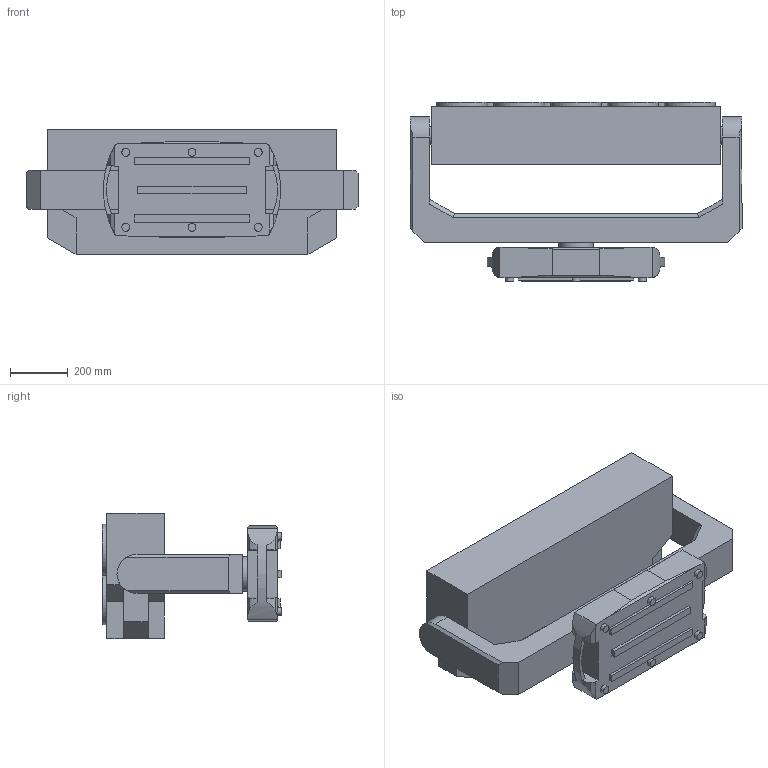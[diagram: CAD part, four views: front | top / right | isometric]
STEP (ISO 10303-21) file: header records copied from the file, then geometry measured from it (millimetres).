
FILE_DESCRIPTION(/* description */ ('Unknown'),/* implementation_level */ '2;1');
FILE_NAME(/* name */ '3D_mySVOPATT',/* time_stamp */ '2026-05-19T12:39:50+02:00',/* author */ ('Unknown'),/* organization */ ('Unknown'),/* preprocessor_version */ 'ST-DEVELOPER v20',/* originating_system */ 'Solid Edge',/* authorisation */ 'Unknown');
FILE_SCHEMA (('AUTOMOTIVE_DESIGN {1 0 10303 214 3 1 1}'));
Length unit declared in the file: millimetre
Products named in the file (4): 3D_mySVOPATT; 3D_mySVOPATT hlava; Rameno; 3D_mySVOPATT základna
Assembly tree (3 placements, depth 2):
  3D_mySVOPATT
    3D_mySVOPATT hlava
    Rameno
    3D_mySVOPATT základna
Bounding box: 1152.01 x 622.5 x 434 mm (x, y, z)
Volume: 128194711.9 mm3; surface area: 2912032.9 mm2
Topology: 3 solids, 3 shells, 145 faces, 365 edges, 243 vertices
Faces by surface type: plane 103, cylinder 38, bspline 4
Full cylindrical faces by diameter (mm): 27.331 x6, 60 x2, 120 x1, 177 x9
Entity records: 5490 total; most frequent: CARTESIAN_POINT 1177, DIRECTION 686, ORIENTED_EDGE 680, EDGE_CURVE 340, LINE 244, VECTOR 244, VERTEX_POINT 236, AXIS2_PLACEMENT_3D 221
